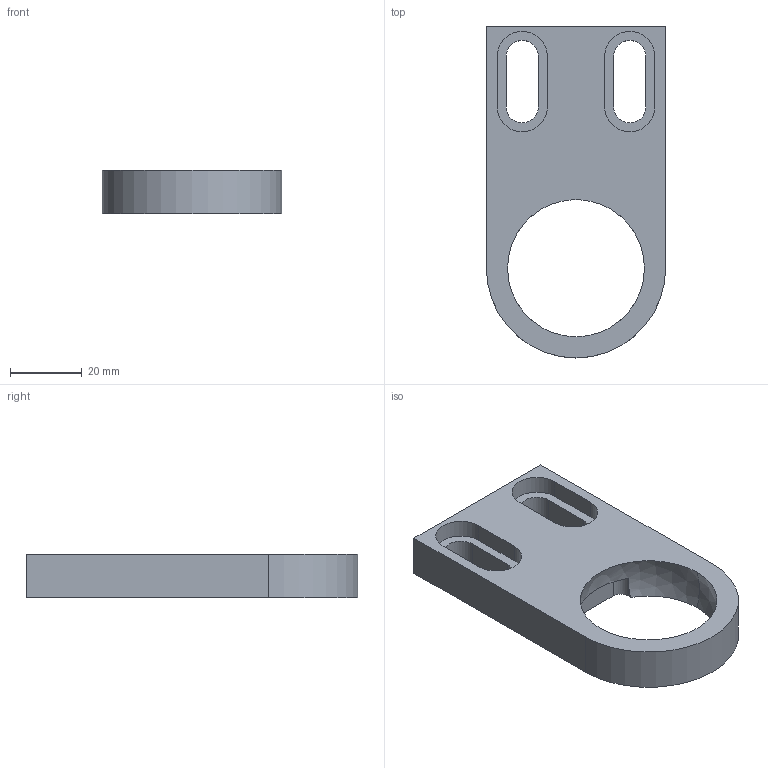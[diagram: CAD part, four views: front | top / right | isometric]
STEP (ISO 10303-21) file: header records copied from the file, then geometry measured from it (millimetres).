
FILE_DESCRIPTION (( 'STEP AP203' ), '1' );
FILE_NAME ('084.802.013-2.STEP', '2013-01-29T13:40:58', ( 'Alusic' ), ( 'Alusic' ), 'SwSTEP 2.0', 'SolidWorks 2011', '' );
FILE_SCHEMA (( 'CONFIG_CONTROL_DESIGN' ));
Length unit declared in the file: millimetre
Products named in the file (1): 084.802.013-2
Bounding box: 50 x 92.5 x 12 mm (x, y, z)
Volume: 31181.9 mm3; surface area: 11842.9 mm2
Topology: 1 solids, 1 shells, 38 faces, 106 edges, 70 vertices
Faces by surface type: plane 23, cylinder 13, sphere 2
Entity records: 1299 total; most frequent: CARTESIAN_POINT 221, DIRECTION 216, ORIENTED_EDGE 204, EDGE_CURVE 102, AXIS2_PLACEMENT_3D 79, VERTEX_POINT 68, LINE 58, VECTOR 58
